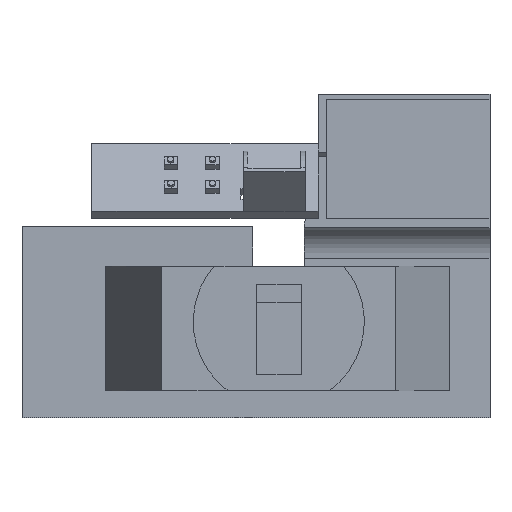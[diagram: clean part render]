
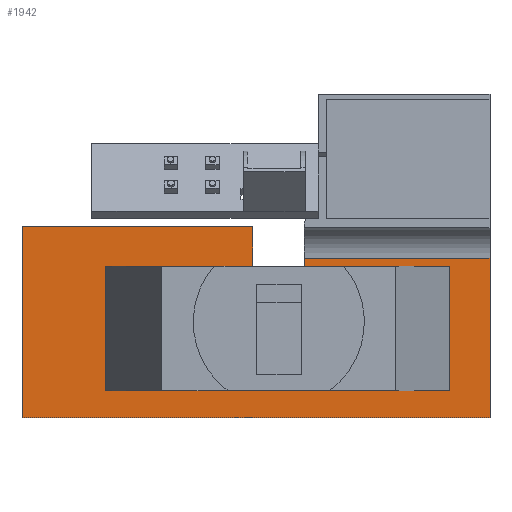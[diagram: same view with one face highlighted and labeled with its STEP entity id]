
A CAD part, top view. The second image highlights one B-rep face of the part: STEP entity #1942.
In plain terms, the highlighted planar face has unit normal (0, 0, 1).
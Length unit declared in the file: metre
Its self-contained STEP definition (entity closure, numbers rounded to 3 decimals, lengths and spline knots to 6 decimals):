
#199=ORIENTED_EDGE('',*,*,#741,.F.);
#200=ORIENTED_EDGE('',*,*,#742,.T.);
#201=ORIENTED_EDGE('',*,*,#743,.T.);
#202=ORIENTED_EDGE('',*,*,#744,.T.);
#203=ORIENTED_EDGE('',*,*,#745,.T.);
#204=ORIENTED_EDGE('',*,*,#746,.F.);
#205=ORIENTED_EDGE('',*,*,#747,.F.);
#206=ORIENTED_EDGE('',*,*,#748,.T.);
#207=ORIENTED_EDGE('',*,*,#642,.F.);
#208=ORIENTED_EDGE('',*,*,#749,.T.);
#209=ORIENTED_EDGE('',*,*,#750,.F.);
#210=ORIENTED_EDGE('',*,*,#751,.F.);
#211=ORIENTED_EDGE('',*,*,#752,.T.);
#212=ORIENTED_EDGE('',*,*,#753,.T.);
#213=ORIENTED_EDGE('',*,*,#754,.F.);
#214=ORIENTED_EDGE('',*,*,#755,.F.);
#215=ORIENTED_EDGE('',*,*,#756,.T.);
#216=ORIENTED_EDGE('',*,*,#757,.T.);
#217=ORIENTED_EDGE('',*,*,#758,.T.);
#218=ORIENTED_EDGE('',*,*,#759,.F.);
#642=EDGE_CURVE('',#923,#924,#1110,.T.);
#741=EDGE_CURVE('',#1002,#1003,#1203,.T.);
#742=EDGE_CURVE('',#1002,#1004,#1204,.F.);
#743=EDGE_CURVE('',#1004,#1005,#1205,.T.);
#744=EDGE_CURVE('',#1005,#1003,#1206,.T.);
#745=EDGE_CURVE('',#1006,#1007,#1207,.T.);
#746=EDGE_CURVE('',#1008,#1007,#1208,.T.);
#747=EDGE_CURVE('',#1009,#1008,#1209,.T.);
#748=EDGE_CURVE('',#1009,#1006,#1210,.T.);
#749=EDGE_CURVE('',#923,#1010,#1211,.F.);
#750=EDGE_CURVE('',#1011,#1010,#1212,.T.);
#751=EDGE_CURVE('',#1012,#1011,#1213,.T.);
#752=EDGE_CURVE('',#1012,#1013,#1214,.T.);
#753=EDGE_CURVE('',#1013,#1014,#1215,.T.);
#754=EDGE_CURVE('',#1015,#1014,#1216,.T.);
#755=EDGE_CURVE('',#1016,#1015,#1217,.T.);
#756=EDGE_CURVE('',#1016,#1017,#1218,.T.);
#757=EDGE_CURVE('',#1017,#1018,#1219,.T.);
#758=EDGE_CURVE('',#1018,#1019,#1220,.T.);
#759=EDGE_CURVE('',#924,#1019,#1221,.T.);
#923=VERTEX_POINT('',#2785);
#924=VERTEX_POINT('',#2787);
#1002=VERTEX_POINT('',#2977);
#1003=VERTEX_POINT('',#2978);
#1004=VERTEX_POINT('',#2980);
#1005=VERTEX_POINT('',#2982);
#1006=VERTEX_POINT('',#2985);
#1007=VERTEX_POINT('',#2986);
#1008=VERTEX_POINT('',#2988);
#1009=VERTEX_POINT('',#2990);
#1010=VERTEX_POINT('',#2993);
#1011=VERTEX_POINT('',#2995);
#1012=VERTEX_POINT('',#2997);
#1013=VERTEX_POINT('',#2999);
#1014=VERTEX_POINT('',#3001);
#1015=VERTEX_POINT('',#3003);
#1016=VERTEX_POINT('',#3005);
#1017=VERTEX_POINT('',#3007);
#1018=VERTEX_POINT('',#3009);
#1019=VERTEX_POINT('',#3011);
#1110=LINE('',#2786,#1364);
#1203=LINE('',#2976,#1457);
#1204=LINE('',#2979,#1458);
#1205=LINE('',#2981,#1459);
#1206=LINE('',#2983,#1460);
#1207=LINE('',#2984,#1461);
#1208=LINE('',#2987,#1462);
#1209=LINE('',#2989,#1463);
#1210=LINE('',#2991,#1464);
#1211=LINE('',#2992,#1465);
#1212=LINE('',#2994,#1466);
#1213=LINE('',#2996,#1467);
#1214=LINE('',#2998,#1468);
#1215=LINE('',#3000,#1469);
#1216=LINE('',#3002,#1470);
#1217=LINE('',#3004,#1471);
#1218=LINE('',#3006,#1472);
#1219=LINE('',#3008,#1473);
#1220=LINE('',#3010,#1474);
#1221=LINE('',#3012,#1475);
#1364=VECTOR('',#2264,1.);
#1457=VECTOR('',#2395,1.);
#1458=VECTOR('',#2396,1.);
#1459=VECTOR('',#2397,1.);
#1460=VECTOR('',#2398,1.);
#1461=VECTOR('',#2399,1.);
#1462=VECTOR('',#2400,1.);
#1463=VECTOR('',#2401,1.);
#1464=VECTOR('',#2402,1.);
#1465=VECTOR('',#2403,1.);
#1466=VECTOR('',#2404,1.);
#1467=VECTOR('',#2405,1.);
#1468=VECTOR('',#2406,1.);
#1469=VECTOR('',#2407,1.);
#1470=VECTOR('',#2408,1.);
#1471=VECTOR('',#2409,1.);
#1472=VECTOR('',#2410,1.);
#1473=VECTOR('',#2411,1.);
#1474=VECTOR('',#2412,1.);
#1475=VECTOR('',#2413,1.);
#1626=EDGE_LOOP('',(#199,#200,#201,#202));
#1627=EDGE_LOOP('',(#203,#204,#205,#206));
#1628=EDGE_LOOP('',(#207,#208,#209,#210,#211,#212,#213,#214,#215,#216,#217,#218));
#1743=FACE_BOUND('',#1626,.T.);
#1744=FACE_BOUND('',#1627,.T.);
#1745=FACE_BOUND('',#1628,.T.);
#1855=PLANE('',#2137);
#1942=ADVANCED_FACE('',(#1743,#1744,#1745),#1855,.F.);
#2137=AXIS2_PLACEMENT_3D('',#2975,#2393,#2394);
#2264=DIRECTION('',(0.,-1.,0.));
#2393=DIRECTION('',(0.,0.,-1.));
#2394=DIRECTION('',(1.,0.,0.));
#2395=DIRECTION('',(-1.,0.,0.));
#2396=DIRECTION('',(0.,1.,0.));
#2397=DIRECTION('',(-1.,0.,0.));
#2398=DIRECTION('',(0.,1.,0.));
#2399=DIRECTION('',(0.,1.,0.));
#2400=DIRECTION('',(-1.,0.,0.));
#2401=DIRECTION('',(0.,1.,0.));
#2402=DIRECTION('',(-1.,0.,0.));
#2403=DIRECTION('',(1.,0.,0.));
#2404=DIRECTION('',(0.,1.,0.));
#2405=DIRECTION('',(-1.,0.,0.));
#2406=DIRECTION('',(0.,-1.,0.));
#2407=DIRECTION('',(-1.,0.,0.));
#2408=DIRECTION('',(0.,-1.,0.));
#2409=DIRECTION('',(-1.,0.,0.));
#2410=DIRECTION('',(0.,1.,0.));
#2411=DIRECTION('',(-1.,0.,0.));
#2412=DIRECTION('',(0.,-1.,0.));
#2413=DIRECTION('',(-1.,0.,0.));
#2785=CARTESIAN_POINT('',(0.121378,0.034633,-0.082256));
#2786=CARTESIAN_POINT('',(0.121378,0.005651,-0.082256));
#2787=CARTESIAN_POINT('',(0.121378,-0.037694,-0.082256));
#2975=CARTESIAN_POINT('',(0.015223,0.005651,-0.082256));
#2976=CARTESIAN_POINT('',(-0.048066,0.030949,-0.082256));
#2977=CARTESIAN_POINT('',(-0.019857,0.030949,-0.082256));
#2978=CARTESIAN_POINT('',(-0.052881,0.030949,-0.082256));
#2979=CARTESIAN_POINT('',(-0.019857,0.005651,-0.082256));
#2980=CARTESIAN_POINT('',(-0.019857,-0.025576,-0.082256));
#2981=CARTESIAN_POINT('',(-0.048066,-0.025576,-0.082256));
#2982=CARTESIAN_POINT('',(-0.052881,-0.025576,-0.082256));
#2983=CARTESIAN_POINT('',(-0.052881,-0.025578,-0.082256));
#2984=CARTESIAN_POINT('',(0.070595,0.030949,-0.082256));
#2985=CARTESIAN_POINT('',(0.070595,-0.025576,-0.082256));
#2986=CARTESIAN_POINT('',(0.070595,0.030949,-0.082256));
#2987=CARTESIAN_POINT('',(0.098187,0.030949,-0.082256));
#2988=CARTESIAN_POINT('',(0.103082,0.030949,-0.082256));
#2989=CARTESIAN_POINT('',(0.103082,-0.025578,-0.082256));
#2990=CARTESIAN_POINT('',(0.103082,-0.025576,-0.082256));
#2991=CARTESIAN_POINT('',(0.098187,-0.025576,-0.082256));
#2992=CARTESIAN_POINT('',(0.043378,0.034633,-0.082256));
#2993=CARTESIAN_POINT('',(0.037176,0.034633,-0.082256));
#2994=CARTESIAN_POINT('',(0.037176,0.029597,-0.082256));
#2995=CARTESIAN_POINT('',(0.037176,0.030949,-0.082256));
#2996=CARTESIAN_POINT('',(0.025678,0.030949,-0.082256));
#2997=CARTESIAN_POINT('',(0.04471,0.030949,-0.082256));
#2998=CARTESIAN_POINT('',(0.04471,0.002687,-0.082256));
#2999=CARTESIAN_POINT('',(0.04471,-0.025576,-0.082256));
#3000=CARTESIAN_POINT('',(0.025678,-0.025576,-0.082256));
#3001=CARTESIAN_POINT('',(0.006647,-0.025576,-0.082256));
#3002=CARTESIAN_POINT('',(0.006647,0.002687,-0.082256));
#3003=CARTESIAN_POINT('',(0.006647,0.030949,-0.082256));
#3004=CARTESIAN_POINT('',(0.025678,0.030949,-0.082256));
#3005=CARTESIAN_POINT('',(0.013828,0.030949,-0.082256));
#3006=CARTESIAN_POINT('',(0.013828,0.029597,-0.082256));
#3007=CARTESIAN_POINT('',(0.013828,0.048997,-0.082256));
#3008=CARTESIAN_POINT('',(0.015223,0.048997,-0.082256));
#3009=CARTESIAN_POINT('',(-0.090933,0.048997,-0.082256));
#3010=CARTESIAN_POINT('',(-0.090933,0.005651,-0.082256));
#3011=CARTESIAN_POINT('',(-0.090933,-0.037694,-0.082256));
#3012=CARTESIAN_POINT('',(0.015223,-0.037694,-0.082256));
